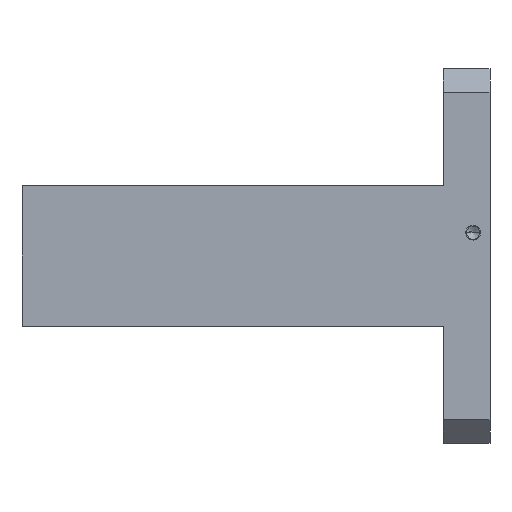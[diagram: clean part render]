
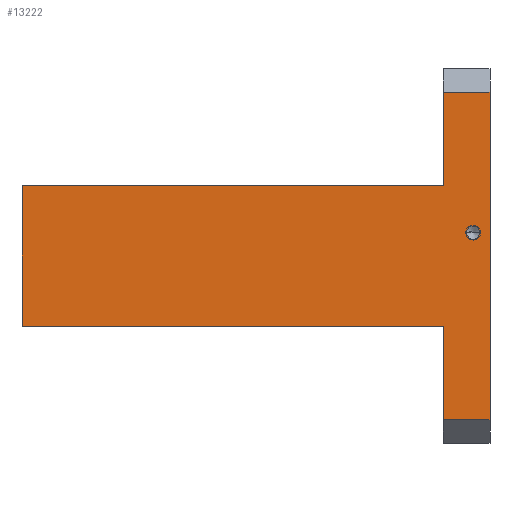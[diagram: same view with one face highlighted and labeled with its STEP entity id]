
A CAD part, left-side view. The second image highlights one B-rep face of the part: STEP entity #13222.
In plain terms, the highlighted planar face has unit normal (-1, 0, 0).
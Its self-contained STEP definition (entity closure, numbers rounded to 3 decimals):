
#35=DIRECTION('',(0.,0.,1.));
#36=VECTOR('',#35,100.);
#37=CARTESIAN_POINT('',(-200.,0.,75.));
#38=LINE('',#37,#36);
#75=DIRECTION('',(0.,0.,1.));
#76=VECTOR('',#75,100.);
#77=CARTESIAN_POINT('',(-200.,0.,-175.));
#78=LINE('',#77,#76);
#233=DIRECTION('',(0.,0.,1.));
#234=VECTOR('',#233,350.);
#235=CARTESIAN_POINT('',(-200.,-50.,-175.));
#236=LINE('',#235,#234);
#459=CARTESIAN_POINT('',(-200.,-32.,25.));
#460=DIRECTION('',(-1.,0.,0.));
#461=DIRECTION('',(0.,1.,0.));
#462=AXIS2_PLACEMENT_3D('',#459,#460,#461);
#464=CARTESIAN_POINT('',(-200.,-32.,25.));
#465=DIRECTION('',(-1.,0.,0.));
#466=DIRECTION('',(0.,-1.,0.));
#467=AXIS2_PLACEMENT_3D('',#464,#465,#466);
#469=DIRECTION('',(0.,-1.,0.));
#470=VECTOR('',#469,50.);
#471=CARTESIAN_POINT('',(-200.,0.,175.));
#472=LINE('',#471,#470);
#473=DIRECTION('',(0.,-1.,0.));
#474=VECTOR('',#473,50.);
#475=CARTESIAN_POINT('',(-200.,0.,-175.));
#476=LINE('',#475,#474);
#477=DIRECTION('',(0.,1.,0.));
#478=VECTOR('',#477,450.);
#479=CARTESIAN_POINT('',(-200.,0.,-75.));
#480=LINE('',#479,#478);
#607=DIRECTION('',(0.,1.,0.));
#608=VECTOR('',#607,450.);
#609=CARTESIAN_POINT('',(-200.,0.,75.));
#610=LINE('',#609,#608);
#1251=DIRECTION('',(0.,0.,1.));
#1252=VECTOR('',#1251,150.);
#1253=CARTESIAN_POINT('',(-200.,450.,-75.));
#1254=LINE('',#1253,#1252);
#9799=CARTESIAN_POINT('',(-200.,450.,-75.));
#9800=CARTESIAN_POINT('',(-200.,450.,75.));
#9801=VERTEX_POINT('',#9799);
#9802=VERTEX_POINT('',#9800);
#9807=CARTESIAN_POINT('',(-200.,0.,75.));
#9809=VERTEX_POINT('',#9807);
#9811=CARTESIAN_POINT('',(-200.,0.,-75.));
#9813=VERTEX_POINT('',#9811);
#9905=CARTESIAN_POINT('',(-200.,-25.,25.));
#9906=CARTESIAN_POINT('',(-200.,-39.,25.));
#9907=VERTEX_POINT('',#9905);
#9908=VERTEX_POINT('',#9906);
#9910=CARTESIAN_POINT('',(-200.,-50.,175.));
#9912=VERTEX_POINT('',#9910);
#9913=CARTESIAN_POINT('',(-200.,0.,175.));
#9914=VERTEX_POINT('',#9913);
#9919=CARTESIAN_POINT('',(-200.,-50.,-175.));
#9920=VERTEX_POINT('',#9919);
#9927=CARTESIAN_POINT('',(-200.,0.,-175.));
#9928=VERTEX_POINT('',#9927);
#13197=CARTESIAN_POINT('',(-200.,0.,-200.));
#13198=DIRECTION('',(-1.,0.,0.));
#13199=DIRECTION('',(0.,0.,1.));
#13200=AXIS2_PLACEMENT_3D('',#13197,#13198,#13199);
#13201=PLANE('',#13200);
#13202=ORIENTED_EDGE('',*,*,#13189,.T.);
#13203=ORIENTED_EDGE('',*,*,#12741,.F.);
#13205=ORIENTED_EDGE('',*,*,#13204,.F.);
#13206=ORIENTED_EDGE('',*,*,#12640,.T.);
#13208=ORIENTED_EDGE('',*,*,#13207,.T.);
#13210=ORIENTED_EDGE('',*,*,#13209,.T.);
#13212=ORIENTED_EDGE('',*,*,#13211,.F.);
#13213=ORIENTED_EDGE('',*,*,#12594,.T.);
#13214=EDGE_LOOP('',(#13202,#13203,#13205,#13206,#13208,#13210,#13212,#13213));
#13215=FACE_OUTER_BOUND('',#13214,.F.);
#13217=ORIENTED_EDGE('',*,*,#13216,.T.);
#13219=ORIENTED_EDGE('',*,*,#13218,.T.);
#13220=EDGE_LOOP('',(#13217,#13219));
#13221=FACE_BOUND('',#13220,.F.);
#13222=ADVANCED_FACE('',(#13215,#13221),#13201,.T.);
#463=CIRCLE('',#462,7.);
#468=CIRCLE('',#467,7.);
#12594=EDGE_CURVE('',#9809,#9914,#38,.T.);
#12640=EDGE_CURVE('',#9928,#9813,#78,.T.);
#12741=EDGE_CURVE('',#9920,#9912,#236,.T.);
#13189=EDGE_CURVE('',#9914,#9912,#472,.T.);
#13204=EDGE_CURVE('',#9928,#9920,#476,.T.);
#13207=EDGE_CURVE('',#9813,#9801,#480,.T.);
#13209=EDGE_CURVE('',#9801,#9802,#1254,.T.);
#13211=EDGE_CURVE('',#9809,#9802,#610,.T.);
#13216=EDGE_CURVE('',#9907,#9908,#463,.T.);
#13218=EDGE_CURVE('',#9908,#9907,#468,.T.);
